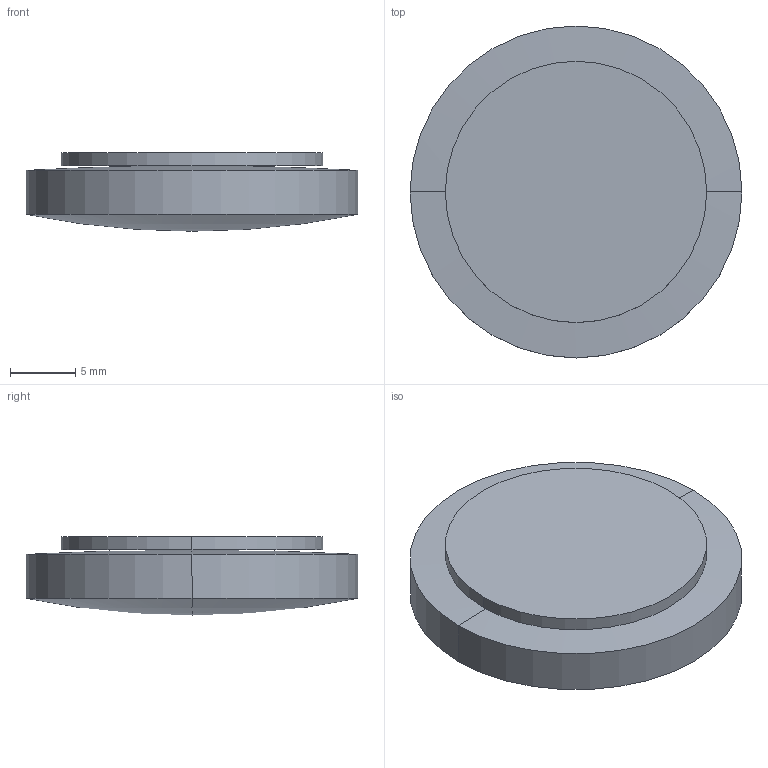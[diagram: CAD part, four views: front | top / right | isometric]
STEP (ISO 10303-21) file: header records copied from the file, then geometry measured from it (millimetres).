
FILE_DESCRIPTION(('STEP AP214'),'1');
FILE_NAME('LLF-25125.STEP','2020-03-09T17:41:23',(' '),(' '),'Spatial InterOp 3D',' ',' ');
FILE_SCHEMA(('AUTOMOTIVE_DESIGN { 1 0 10303 214 1 1 1 1 }'));
Length unit declared in the file: millimetre
Products named in the file (1): 1
Bounding box: 25.4 x 25.4 x 6 mm (x, y, z)
Volume: 2435.8 mm3; surface area: 1979 mm2
Topology: 2 solids, 2 shells, 10 faces, 20 edges, 10 vertices
Faces by surface type: sphere 4, cylinder 4, plane 2
Entity records: 255 total; most frequent: DIRECTION 52, CARTESIAN_POINT 38, ORIENTED_EDGE 32, AXIS2_PLACEMENT_3D 24, EDGE_CURVE 16, CIRCLE 12, ADVANCED_FACE 10, FACE_OUTER_BOUND 10
